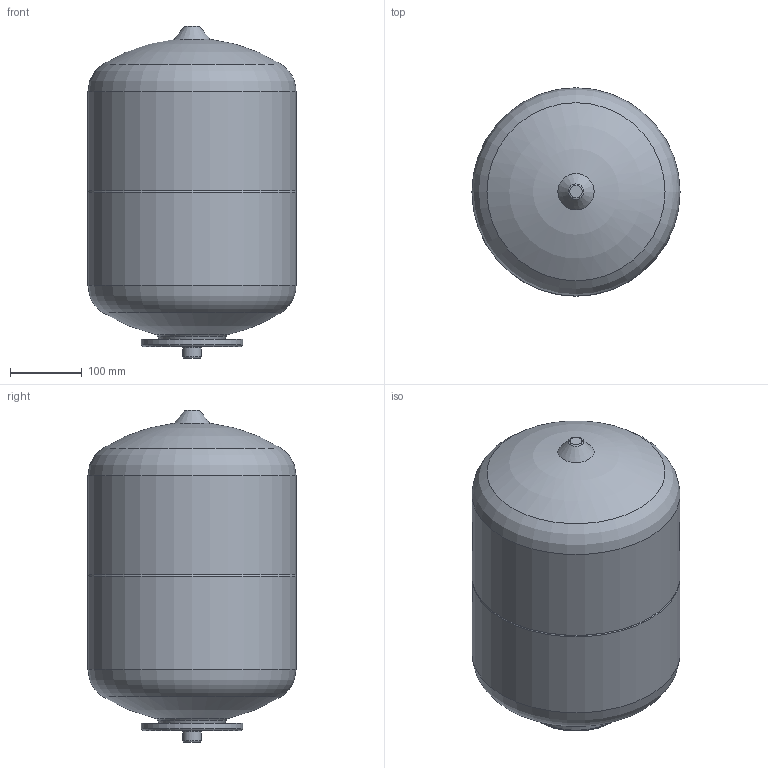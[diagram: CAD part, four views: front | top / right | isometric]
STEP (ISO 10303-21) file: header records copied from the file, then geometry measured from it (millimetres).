
FILE_DESCRIPTION(('STEP AP242'), '1');
FILE_NAME('VT.A.R.050025', '', ('UNSPECIFIED'), ('UNSPECIFIED'), 'C3D Converter', 'C3D Toolkit', '');
FILE_SCHEMA(('AP242_MANAGED_MODEL_BASED_3D_ENGINEERING_MIM_LF { 1 0 10303 442 1 1 4 }'));
Length unit declared in the file: millimetre
Bounding box: 290 x 290 x 462.52 mm (x, y, z)
Volume: 24401553.2 mm3; surface area: 459410.4 mm2
Topology: 1 solids, 1 shells, 37 faces, 101 edges, 72 vertices
Faces by surface type: torus 14, plane 8, cone 7, cylinder 6, sphere 2
Full cylindrical faces by diameter (mm): 20 x1, 26 x1, 78 x1, 141 x1, 290 x2
Entity records: 1134 total; most frequent: DIRECTION 220, CARTESIAN_POINT 182, ORIENTED_EDGE 144, AXIS2_PLACEMENT_3D 110, FACE_BOUND 72, EDGE_LOOP 72, EDGE_CURVE 72, VERTEX_POINT 72
